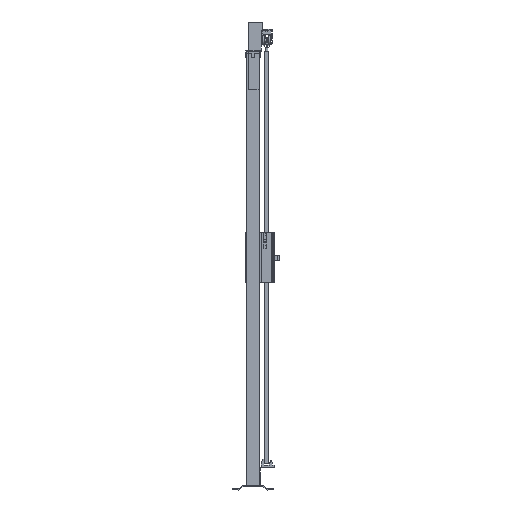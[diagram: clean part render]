
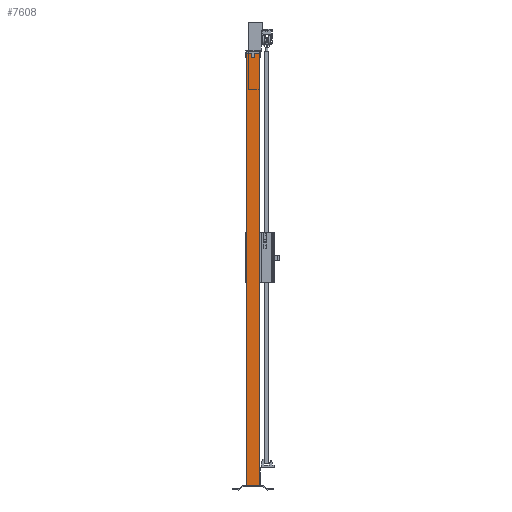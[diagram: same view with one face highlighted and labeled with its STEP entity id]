
A CAD part, left-side view. The second image highlights one B-rep face of the part: STEP entity #7608.
In plain terms, the highlighted planar face has unit normal (-1, 0, 0).
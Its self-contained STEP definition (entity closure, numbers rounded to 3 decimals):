
#831=FACE_OUTER_BOUND('',#1212,.T.);
#1212=EDGE_LOOP('',(#5810,#5811,#5812,#5813));
#1866=LINE('',#11460,#2854);
#1870=LINE('',#11469,#2858);
#1872=LINE('',#11472,#2860);
#1874=LINE('',#11475,#2862);
#2854=VECTOR('',#9099,1.);
#2858=VECTOR('',#9105,1.);
#2860=VECTOR('',#9109,1.);
#2862=VECTOR('',#9113,1.);
#3656=VERTEX_POINT('',#11457);
#3657=VERTEX_POINT('',#11459);
#3660=VERTEX_POINT('',#11466);
#3661=VERTEX_POINT('',#11468);
#4478=EDGE_CURVE('',#3656,#3657,#1866,.T.);
#4482=EDGE_CURVE('',#3660,#3661,#1870,.T.);
#4484=EDGE_CURVE('',#3657,#3660,#1872,.T.);
#4486=EDGE_CURVE('',#3656,#3661,#1874,.T.);
#5810=ORIENTED_EDGE('',*,*,#4486,.T.);
#5811=ORIENTED_EDGE('',*,*,#4482,.F.);
#5812=ORIENTED_EDGE('',*,*,#4484,.F.);
#5813=ORIENTED_EDGE('',*,*,#4478,.F.);
#7264=PLANE('',#8045);
#7608=ADVANCED_FACE('',(#831),#7264,.F.);
#8045=AXIS2_PLACEMENT_3D('',#11474,#9111,#9112);
#9099=DIRECTION('',(0.,-1.,0.));
#9105=DIRECTION('',(0.,1.,0.));
#9109=DIRECTION('',(0.,0.,-1.));
#9111=DIRECTION('center_axis',(1.,0.,0.));
#9112=DIRECTION('ref_axis',(0.,0.,-1.));
#9113=DIRECTION('',(0.,0.,-1.));
#11457=CARTESIAN_POINT('',(-30.,30.,2020.));
#11459=CARTESIAN_POINT('',(-30.,-30.,2020.));
#11460=CARTESIAN_POINT('',(-30.,0.,2020.));
#11466=CARTESIAN_POINT('',(-30.,-30.,20.));
#11468=CARTESIAN_POINT('',(-30.,30.,20.));
#11469=CARTESIAN_POINT('',(-30.,0.,20.));
#11472=CARTESIAN_POINT('',(-30.,-30.,1020.));
#11474=CARTESIAN_POINT('Origin',(-30.,0.,
1020.));
#11475=CARTESIAN_POINT('',(-30.,30.,1020.));
